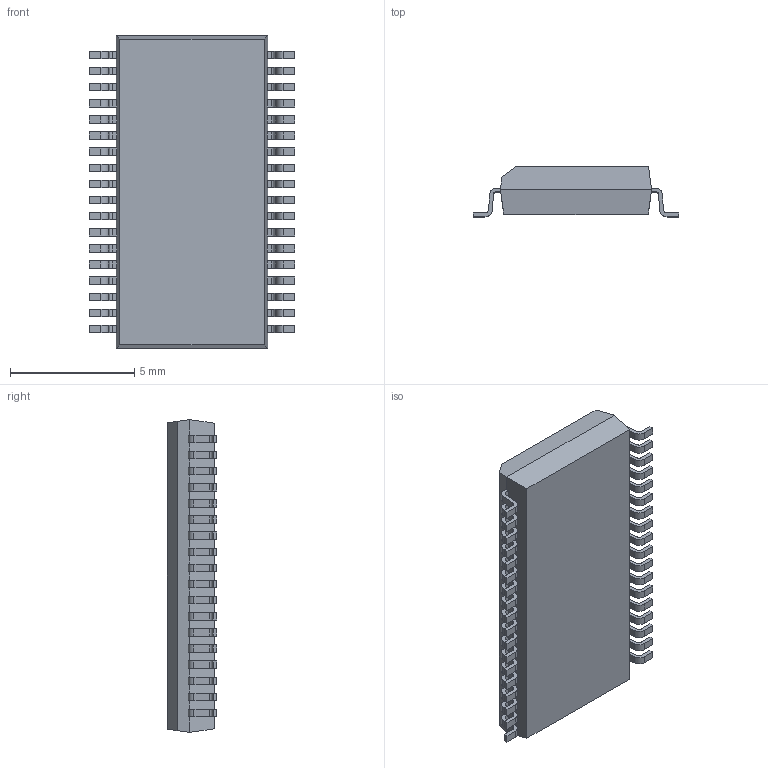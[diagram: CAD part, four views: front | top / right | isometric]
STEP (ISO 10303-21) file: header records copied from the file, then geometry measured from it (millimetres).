
FILE_DESCRIPTION (( 'STEP AP214' ), '1' );
FILE_NAME ('SOP65P810X200-36_MO-152.DD.STEP', '2014-10-30T11:23:03', ( 'Tester2' ), ( '' ), 'SwSTEP 2.0', 'SolidWorks 2012', '' );
FILE_SCHEMA (( 'AUTOMOTIVE_DESIGN' ));
Length unit declared in the file: millimetre
Products named in the file (1): SOP65P810X200-36_MO-152.DD
Bounding box: 8.3 x 2 x 12.6 mm (x, y, z)
Volume: 143.2 mm3; surface area: 272.9 mm2
Topology: 1 solids, 1 shells, 482 faces, 1433 edges, 954 vertices
Faces by surface type: plane 336, cylinder 146
Entity records: 21312 total; most frequent: CARTESIAN_POINT 2870, ORIENTED_EDGE 2866, DIRECTION 2691, EDGE_CURVE 1433, LINE 1141, VECTOR 1141, VERTEX_POINT 954, AXIS2_PLACEMENT_3D 775
